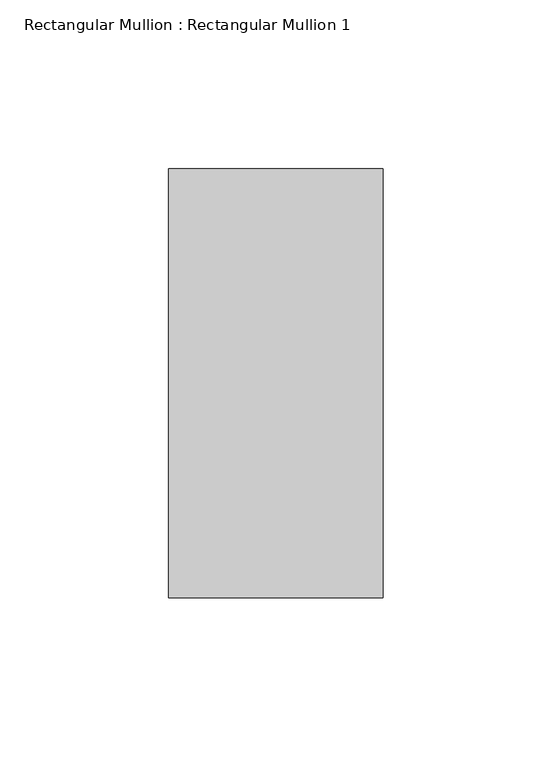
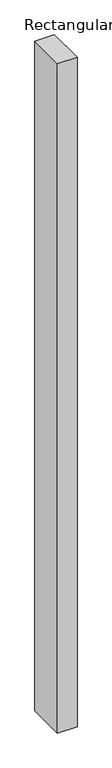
"""IFC4 building model written with IfcOpenShell, lengths in millimetres: member geometry, Rectangular Mullion : Rectangular Mullion 1."""

from ifc_helpers import new_model, si_unit, frame, origin, place, context, project, spatial, polyline, outline, extrude, source, transform, mapped, element, save


def rectangular_mullion_rectangular_mullion_1_387f0aec(model_context):
    return source(origin(), model_context, "Body", "SweptSolid", [
        extrude(outline(polyline([(0.0, 63.5), (0.0, -63.5), (-63.5, -63.5), (-63.5, 63.5), (0.0, 63.5)])), frame((0.0, 0.0, -2300.0), z_axis=(0.0, 0.0, 1.0), x_axis=(1.0, 0.0, 0.0)), (0.0, 0.0, 1.0), 2300.0),
    ])


if __name__ == "__main__":
    model = new_model("IFC4")
    model_context = context("Model", 3, world=origin())
    ifc_project = project(units=[si_unit("LENGTHUNIT", "METRE", prefix="MILLI")], contexts=[model_context])
    site = spatial("IfcSite", under=ifc_project)
    building = spatial("IfcBuilding", under=site)
    placement = place(None, origin())
    rectangular_mullion_rectangular_mullion_1_shape = rectangular_mullion_rectangular_mullion_1_387f0aec(model_context)
    element("IfcMember", 1, ObjectType="Rectangular Mullion : Rectangular Mullion 1", at=placement, inside=building, context=model_context, shape_type="MappedRepresentation", body=[
        mapped(rectangular_mullion_rectangular_mullion_1_shape, transform((0.0, 0.0, 0.0), x_axis=(1.0, 0.0, 0.0), y_axis=(0.0, 1.0, 0.0), z_axis=(0.0, 0.0, 1.0))),
    ])
    save(model, "model.ifc")
